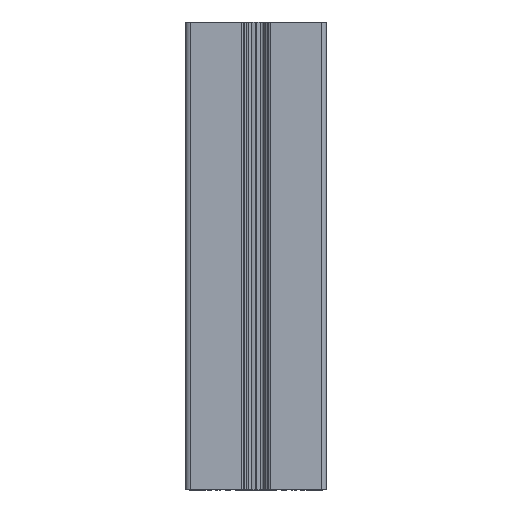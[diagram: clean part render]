
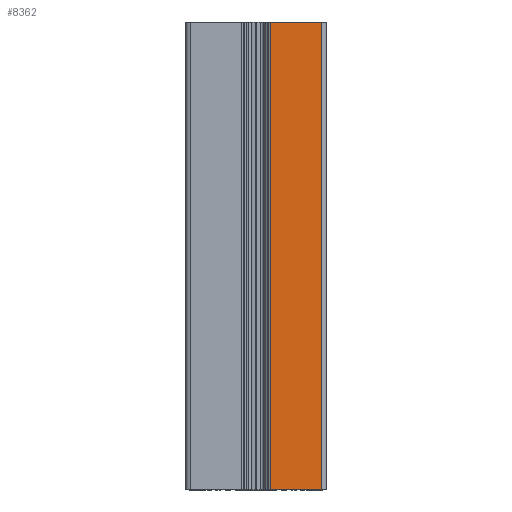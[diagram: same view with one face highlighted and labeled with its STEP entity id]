
A CAD part, front view. The second image highlights one B-rep face of the part: STEP entity #8362.
In plain terms, the highlighted planar face has unit normal (0, -1, 0).
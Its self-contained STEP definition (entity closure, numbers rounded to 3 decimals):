
#8304=CARTESIAN_POINT('',(28.,-30.0,0.));
#8305=VERTEX_POINT('',#8304);
#8313=CARTESIAN_POINT('',(28.,-30.0,-200.0));
#8314=VERTEX_POINT('',#8313);
#8315=CARTESIAN_POINT('',(28.,-30.0,-200.0));
#8316=DIRECTION('',(0.0,0.0,1.0));
#8317=VECTOR('',#8316,200.);
#8318=LINE('',#8315,#8317);
#8319=EDGE_CURVE('',#8314,#8305,#8318,.T.);
#8332=CARTESIAN_POINT('',(28.,-30.0,-200.0));
#8333=DIRECTION('',(0.0,-1.0,0.0));
#8334=DIRECTION('',(0.0,0.0,-1.0));
#8335=AXIS2_PLACEMENT_3D('',#8332,#8333,#8334);
#8336=PLANE('',#8335);
#8337=CARTESIAN_POINT('',(6.,-30.,0.));
#8338=VERTEX_POINT('',#8337);
#8339=CARTESIAN_POINT('',(28.,-30.0,0.0));
#8340=DIRECTION('',(-1.0,0.0,0.0));
#8341=VECTOR('',#8340,22.);
#8342=LINE('',#8339,#8341);
#8343=EDGE_CURVE('',#8305,#8338,#8342,.T.);
#8344=ORIENTED_EDGE('',*,*,#8343,.T.);
#8345=CARTESIAN_POINT('',(6.,-30.,-200.0));
#8346=VERTEX_POINT('',#8345);
#8347=CARTESIAN_POINT('',(6.,-30.,-200.0));
#8348=DIRECTION('',(0.0,0.0,1.0));
#8349=VECTOR('',#8348,200.);
#8350=LINE('',#8347,#8349);
#8351=EDGE_CURVE('',#8346,#8338,#8350,.T.);
#8352=ORIENTED_EDGE('',*,*,#8351,.F.);
#8353=CARTESIAN_POINT('',(6.,-30.,-200.0));
#8354=DIRECTION('',(1.0,0.0,0.0));
#8355=VECTOR('',#8354,22.);
#8356=LINE('',#8353,#8355);
#8357=EDGE_CURVE('',#8346,#8314,#8356,.T.);
#8358=ORIENTED_EDGE('',*,*,#8357,.T.);
#8359=ORIENTED_EDGE('',*,*,#8319,.T.);
#8360=EDGE_LOOP('',(#8344,#8352,#8358,#8359));
#8361=FACE_OUTER_BOUND('',#8360,.T.);
#8362=ADVANCED_FACE('',(#8361),#8336,.T.);
